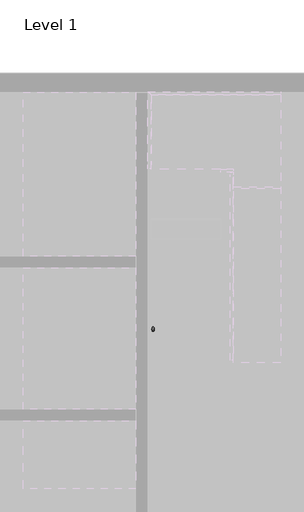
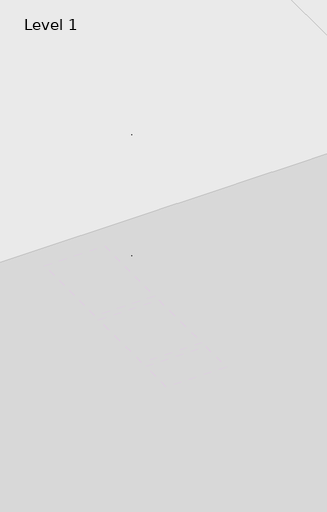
# One storey, part 26 of 27: 1 railing.
"""IFC4 building model written with IfcOpenShell, lengths in millimetres."""

from ifc_helpers import new_model, si_unit, point, frame, frame_2d, origin, place, context, project, spatial, circle_curve, ellipse_curve, trimmed, segment, composite_curve, outline, extrude, element, save
from ifc_brep_helpers import plane_surface, cylinder_surface, revolved_surface, advanced_brep

model = new_model("IFC4")

# Units and contexts
model_context = context("Model", 3, world=origin())
ifc_project = project(units=[si_unit("LENGTHUNIT", "METRE", prefix="MILLI")], contexts=[model_context])

# Site, building, storey
site = spatial("IfcSite", under=ifc_project)
building = spatial("IfcBuilding", under=site)
storey = spatial("IfcBuildingStorey", under=building, Name="Level 1", Elevation=0.0)

# Railing
placement = place(None, origin())
element("IfcRailing", 1, ObjectType="Handrail - Pipe - Wall-Ramp", at=placement, inside=storey, context=model_context, shape_type="SolidModel", body=[
    advanced_brep(
    [(25012.6999097, 26848.5799804, 4864.631259), (24974.5999097, 26848.5799804, 4864.631259), (25012.6999097, 29598.5799804, 6591.9039863), (24974.5999097, 29598.5799804, 6591.9039863)],
    [
        (0, 1, ellipse_curve(frame((24993.6499097, 26848.5799804, 4864.631259), z_axis=(0.0, -1.0, 0.0), x_axis=(0.0, 0.0, -1.0)), 22.496014, 19.05)),
        (1, 0, ellipse_curve(frame((24993.6499097, 26848.5799804, 4864.631259), z_axis=(0.0, -1.0, 0.0), x_axis=(0.0, 0.0, -1.0)), 22.496014, 19.05)),
        (2, 3, ellipse_curve(frame((24993.6499097, 29598.5799804, 6591.9039863), z_axis=(0.0, 1.0, 0.0), x_axis=(0.0, 0.0, -1.0)), 22.496014, 19.05)),
        (3, 2, ellipse_curve(frame((24993.6499097, 29598.5799804, 6591.9039863), z_axis=(0.0, 1.0, 0.0), x_axis=(0.0, 0.0, -1.0)), 22.496014, 19.05)),
        (0, 2),
        (3, 1),
    ],
    [
        plane_surface(frame((24993.6499097, 26848.5799804, 4887.127273), z_axis=(0.0, -1.0, 0.0), x_axis=(0.0, 0.0, 1.0))),
        plane_surface(frame((24993.6499097, 29598.5799804, 6614.4000003), z_axis=(0.0, 1.0, 0.0), x_axis=(0.0, 0.0, 1.0))),
        cylinder_surface(frame((24993.6499097, 26858.712387, 4870.9954152), z_axis=(0.0, -0.8468166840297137, -0.5318848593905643), x_axis=(-1.0, 0.0, 0.0)), 19.05),
    ],
    [
        (0, [[1, 2]]),
        (1, [[3, 4]]),
        (2, [[-1, 5, -4, 6]]),
        (2, [[-2, -6, -3, -5]]),
    ],
),
    advanced_brep(
    [(24993.6999097, 28826.8299804, 6119.6028929), (24993.6999097, 28839.5299804, 6119.6028929), (24993.6999097, 28839.5299804, 6062.4528929), (24993.6999097, 28826.8299804, 6062.4528929), (24974.6499097, 28839.5299804, 6043.4028929), (24974.6499097, 28826.8299804, 6043.4028929), (24946.0749097, 28826.8299804, 6043.4028929), (24946.0749097, 28839.5299804, 6043.4028929)],
    [
        (0, 1, circle_curve(frame((24993.6999097, 28833.1799804, 6119.6028929), z_axis=(0.0, 0.0, 1.0), x_axis=(0.0, 1.0, 0.0)), 6.35)),
        (1, 0, circle_curve(frame((24993.6999097, 28833.1799804, 6119.6028929), z_axis=(0.0, 0.0, 1.0), x_axis=(0.0, 1.0, 0.0)), 6.35)),
        (1, 2),
        (2, 3, circle_curve(frame((24993.6999097, 28833.1799804, 6062.4528929), z_axis=(0.0, 0.0, 1.0), x_axis=(0.0, 1.0, 0.0)), 6.35)),
        (3, 0),
        (3, 2, circle_curve(frame((24993.6999097, 28833.1799804, 6062.4528929), z_axis=(0.0, 0.0, 1.0), x_axis=(0.0, 1.0, 0.0)), 6.35)),
        (4, 5, circle_curve(frame((24974.6499097, 28833.1799804, 6043.4028929), z_axis=(1.0, 0.0, 0.0), x_axis=(0.0, 1.0, 0.0)), 6.35)),
        (5, 3, circle_curve(frame((24974.6499097, 28826.8299804, 6062.4528929), z_axis=(0.0, -1.0, 0.0), x_axis=(1.0, 0.0, 0.0)), 19.05)),
        (2, 4, circle_curve(frame((24974.6499097, 28839.5299804, 6062.4528929), z_axis=(0.0, 1.0, 0.0), x_axis=(1.0, 0.0, 0.0)), 19.05)),
        (5, 4, circle_curve(frame((24974.6499097, 28833.1799804, 6043.4028929), z_axis=(1.0, 0.0, 0.0), x_axis=(0.0, 1.0, 0.0)), 6.35)),
        (6, 7, circle_curve(frame((24946.0749097, 28833.1799804, 6043.4028929), z_axis=(-1.0, 0.0, 0.0), x_axis=(0.0, 1.0, 0.0)), 6.35)),
        (7, 6, circle_curve(frame((24946.0749097, 28833.1799804, 6043.4028929), z_axis=(-1.0, 0.0, 0.0), x_axis=(0.0, 1.0, 0.0)), 6.35)),
        (4, 7),
        (6, 5),
    ],
    [
        plane_surface(frame((24993.6999097, 28839.5299804, 6119.6028929), z_axis=(0.0, 0.0, 1.0), x_axis=(-1.0, 0.0, 0.0))),
        cylinder_surface(frame((24993.6999097, 28833.1799804, 6119.6028929), z_axis=(0.0, 0.0, 1.0), x_axis=(0.0, 1.0, 0.0)), 6.35),
        revolved_surface(trimmed(ellipse_curve(frame((24993.6999097, 28833.1799804, 6062.4528929), z_axis=(0.0, 0.0, -1.0), x_axis=(0.0, 1.0, 0.0)), 6.35, 6.35), [point((24993.6999097, 28826.8299804, 6062.4528929))], [point((24993.6999097, 28839.5299804, 6062.4528929))], True, "CARTESIAN"), (24974.6499097, 28833.1799804, 6062.4528929), (0.0, -1.0, 0.0)),
        revolved_surface(trimmed(ellipse_curve(frame((24993.6999097, 28833.1799804, 6062.4528929), z_axis=(0.0, 0.0, -1.0), x_axis=(0.0, 1.0, 0.0)), 6.35, 6.35), [point((24993.6999097, 28839.5299804, 6062.4528929))], [point((24993.6999097, 28826.8299804, 6062.4528929))], True, "CARTESIAN"), (24974.6499097, 28833.1799804, 6062.4528929), (0.0, -1.0, 0.0)),
        plane_surface(frame((24946.0749097, 28833.1799804, 6037.0528929), z_axis=(-1.0, 0.0, 0.0), x_axis=(0.0, 1.0, 0.0))),
        cylinder_surface(frame((24974.6499097, 28833.1799804, 6043.4028929), z_axis=(1.0, 0.0, 0.0), x_axis=(0.0, 1.0, 0.0)), 6.35),
    ],
    [
        (0, [[1, 2]]),
        (1, [[3, 4, 5, -2]]),
        (1, [[-5, 6, -3, -1]]),
        (2, [[7, 8, -4, 9]]),
        (3, [[10, -9, -6, -8]]),
        (4, [[11, 12]]),
        (5, [[13, -11, 14, -7]]),
        (5, [[-14, -12, -13, -10]]),
    ],
),
    extrude(outline(composite_curve([segment(trimmed(circle_curve(frame_2d((28833.1799804, 6043.4028929)), 25.4), [point((28858.5799804, 6043.4028929))], [point((28807.7799804, 6043.4028929))], False, "CARTESIAN"), True, "CONTINUOUS"), segment(trimmed(circle_curve(frame_2d((28833.1799804, 6043.4028929)), 25.4), [point((28807.7799804, 6043.4028929))], [point((28858.5799804, 6043.4028929))], False, "CARTESIAN"), True, "CONTINUOUS")], self_intersect=False)), frame((24936.5499097, 0.0, 0.0), z_axis=(1.0, 0.0, 0.0), x_axis=(0.0, 1.0, 0.0)), (0.0, 0.0, 1.0), 9.525),
    advanced_brep(
    [(24993.6999097, 27607.6299804, 5353.8243805), (24993.6999097, 27620.3299804, 5353.8243805), (24993.6999097, 27620.3299804, 5296.6743805), (24993.6999097, 27607.6299804, 5296.6743805), (24974.6499097, 27620.3299804, 5277.6243805), (24974.6499097, 27607.6299804, 5277.6243805), (24946.0749097, 27607.6299804, 5277.6243805), (24946.0749097, 27620.3299804, 5277.6243805)],
    [
        (0, 1, circle_curve(frame((24993.6999097, 27613.9799804, 5353.8243805), z_axis=(0.0, 0.0, 1.0), x_axis=(0.0, 1.0, 0.0)), 6.35)),
        (1, 0, circle_curve(frame((24993.6999097, 27613.9799804, 5353.8243805), z_axis=(0.0, 0.0, 1.0), x_axis=(0.0, 1.0, 0.0)), 6.35)),
        (1, 2),
        (2, 3, circle_curve(frame((24993.6999097, 27613.9799804, 5296.6743805), z_axis=(0.0, 0.0, 1.0), x_axis=(0.0, 1.0, 0.0)), 6.35)),
        (3, 0),
        (3, 2, circle_curve(frame((24993.6999097, 27613.9799804, 5296.6743805), z_axis=(0.0, 0.0, 1.0), x_axis=(0.0, 1.0, 0.0)), 6.35)),
        (4, 5, circle_curve(frame((24974.6499097, 27613.9799804, 5277.6243805), z_axis=(1.0, 0.0, 0.0), x_axis=(0.0, 1.0, 0.0)), 6.35)),
        (5, 3, circle_curve(frame((24974.6499097, 27607.6299804, 5296.6743805), z_axis=(0.0, -1.0, 0.0), x_axis=(1.0, 0.0, 0.0)), 19.05)),
        (2, 4, circle_curve(frame((24974.6499097, 27620.3299804, 5296.6743805), z_axis=(0.0, 1.0, 0.0), x_axis=(1.0, 0.0, 0.0)), 19.05)),
        (5, 4, circle_curve(frame((24974.6499097, 27613.9799804, 5277.6243805), z_axis=(1.0, 0.0, 0.0), x_axis=(0.0, 1.0, 0.0)), 6.35)),
        (6, 7, circle_curve(frame((24946.0749097, 27613.9799804, 5277.6243805), z_axis=(-1.0, 0.0, 0.0), x_axis=(0.0, 1.0, 0.0)), 6.35)),
        (7, 6, circle_curve(frame((24946.0749097, 27613.9799804, 5277.6243805), z_axis=(-1.0, 0.0, 0.0), x_axis=(0.0, 1.0, 0.0)), 6.35)),
        (4, 7),
        (6, 5),
    ],
    [
        plane_surface(frame((24993.6999097, 27620.3299804, 5353.8243805), z_axis=(0.0, 0.0, 1.0), x_axis=(-1.0, 0.0, 0.0))),
        cylinder_surface(frame((24993.6999097, 27613.9799804, 5353.8243805), z_axis=(0.0, 0.0, 1.0), x_axis=(0.0, 1.0, 0.0)), 6.35),
        revolved_surface(trimmed(ellipse_curve(frame((24993.6999097, 27613.9799804, 5296.6743805), z_axis=(0.0, 0.0, -1.0), x_axis=(0.0, 1.0, 0.0)), 6.35, 6.35), [point((24993.6999097, 27607.6299804, 5296.6743805))], [point((24993.6999097, 27620.3299804, 5296.6743805))], True, "CARTESIAN"), (24974.6499097, 27613.9799804, 5296.6743805), (0.0, -1.0, 0.0)),
        revolved_surface(trimmed(ellipse_curve(frame((24993.6999097, 27613.9799804, 5296.6743805), z_axis=(0.0, 0.0, -1.0), x_axis=(0.0, 1.0, 0.0)), 6.35, 6.35), [point((24993.6999097, 27620.3299804, 5296.6743805))], [point((24993.6999097, 27607.6299804, 5296.6743805))], True, "CARTESIAN"), (24974.6499097, 27613.9799804, 5296.6743805), (0.0, -1.0, 0.0)),
        plane_surface(frame((24946.0749097, 27613.9799804, 5271.2743805), z_axis=(-1.0, 0.0, 0.0), x_axis=(0.0, 1.0, 0.0))),
        cylinder_surface(frame((24974.6499097, 27613.9799804, 5277.6243805), z_axis=(1.0, 0.0, 0.0), x_axis=(0.0, 1.0, 0.0)), 6.35),
    ],
    [
        (0, [[1, 2]]),
        (1, [[3, 4, 5, -2]]),
        (1, [[-5, 6, -3, -1]]),
        (2, [[7, 8, -4, 9]]),
        (3, [[10, -9, -6, -8]]),
        (4, [[11, 12]]),
        (5, [[13, -11, 14, -7]]),
        (5, [[-14, -12, -13, -10]]),
    ],
),
    extrude(outline(composite_curve([segment(trimmed(circle_curve(frame_2d((27613.9799804, 5277.6243805)), 25.4), [point((27639.3799804, 5277.6243805))], [point((27588.5799804, 5277.6243805))], False, "CARTESIAN"), True, "CONTINUOUS"), segment(trimmed(circle_curve(frame_2d((27613.9799804, 5277.6243805)), 25.4), [point((27588.5799804, 5277.6243805))], [point((27639.3799804, 5277.6243805))], False, "CARTESIAN"), True, "CONTINUOUS")], self_intersect=False)), frame((24936.5499097, 0.0, 0.0), z_axis=(1.0, 0.0, 0.0), x_axis=(0.0, 1.0, 0.0)), (0.0, 0.0, 1.0), 9.525),
    advanced_brep(
    [(24974.6499097, 29585.8799804, 6590.3731408), (25012.7499097, 29585.8799804, 6590.3731408), (25012.7499097, 29852.5799804, 6590.3731408), (24974.6499097, 29852.5799804, 6590.3731408), (24936.5499097, 29871.6299804, 6590.3731408), (24936.5499097, 29909.7299804, 6590.3731408), (24955.5999097, 29909.7299804, 6590.3731408), (24955.5999097, 29871.6299804, 6590.3731408)],
    [
        (0, 1, circle_curve(frame((24993.6999097, 29585.8799804, 6590.3731408), z_axis=(0.0, -1.0, 0.0), x_axis=(1.0, 0.0, 0.0)), 19.05)),
        (1, 0, circle_curve(frame((24993.6999097, 29585.8799804, 6590.3731408), z_axis=(0.0, -1.0, 0.0), x_axis=(1.0, 0.0, 0.0)), 19.05)),
        (1, 2),
        (2, 3, circle_curve(frame((24993.6999097, 29852.5799804, 6590.3731408), z_axis=(0.0, -1.0, 0.0), x_axis=(1.0, 0.0, 0.0)), 19.05)),
        (3, 0),
        (3, 2, circle_curve(frame((24993.6999097, 29852.5799804, 6590.3731408), z_axis=(0.0, -1.0, 0.0), x_axis=(1.0, 0.0, 0.0)), 19.05)),
        (4, 5, circle_curve(frame((24936.5499097, 29890.6799804, 6590.3731408), z_axis=(-1.0, 0.0, 0.0), x_axis=(0.0, 1.0, 0.0)), 19.05)),
        (5, 4, circle_curve(frame((24936.5499097, 29890.6799804, 6590.3731408), z_axis=(-1.0, 0.0, 0.0), x_axis=(0.0, 1.0, 0.0)), 19.05)),
        (6, 5),
        (4, 7),
        (7, 6, circle_curve(frame((24955.5999097, 29890.6799804, 6590.3731408), z_axis=(-1.0, 0.0, 0.0), x_axis=(0.0, 1.0, 0.0)), 19.05)),
        (6, 7, circle_curve(frame((24955.5999097, 29890.6799804, 6590.3731408), z_axis=(-1.0, 0.0, 0.0), x_axis=(0.0, 1.0, 0.0)), 19.05)),
        (7, 3, circle_curve(frame((24955.5999097, 29852.5799804, 6590.3731408), z_axis=(0.0, 0.0, -1.0), x_axis=(1.0, 0.0, 0.0)), 19.05)),
        (2, 6, circle_curve(frame((24955.5999097, 29852.5799804, 6590.3731408), z_axis=(0.0, 0.0, 1.0), x_axis=(1.0, 0.0, 0.0)), 57.15)),
    ],
    [
        plane_surface(frame((24993.6999097, 29585.8799804, 6590.3731408), z_axis=(0.0, -1.0, 0.0), x_axis=(0.0, 0.0, 1.0))),
        cylinder_surface(frame((24993.6999097, 29585.8799804, 6590.3731408), z_axis=(0.0, -1.0, 0.0), x_axis=(1.0, 0.0, 0.0)), 19.05),
        plane_surface(frame((24936.5499097, 29890.6799804, 6590.3731408), z_axis=(-1.0, 0.0, 0.0), x_axis=(0.0, 0.0, 1.0))),
        cylinder_surface(frame((24955.5999097, 29890.6799804, 6590.3731408), z_axis=(1.0, 0.0, 0.0), x_axis=(0.0, 1.0, 0.0)), 19.05),
        revolved_surface(trimmed(ellipse_curve(frame((24993.6999097, 29852.5799804, 6590.3731408), z_axis=(0.0, 1.0, 0.0), x_axis=(1.0, 0.0, 0.0)), 19.05, 19.05), [point((24974.6499097, 29852.5799804, 6590.3731408))], [point((25012.7499097, 29852.5799804, 6590.3731408))], True, "CARTESIAN"), (24955.5999097, 29852.5799804, 6590.3731408), (0.0, 0.0, -1.0)),
        revolved_surface(trimmed(ellipse_curve(frame((24993.6999097, 29852.5799804, 6590.3731408), z_axis=(0.0, 1.0, 0.0), x_axis=(1.0, 0.0, 0.0)), 19.05, 19.05), [point((25012.7499097, 29852.5799804, 6590.3731408))], [point((24974.6499097, 29852.5799804, 6590.3731408))], True, "CARTESIAN"), (24955.5999097, 29852.5799804, 6590.3731408), (0.0, 0.0, -1.0)),
    ],
    [
        (0, [[1, 2]]),
        (1, [[3, 4, 5, -2]]),
        (1, [[-5, 6, -3, -1]]),
        (2, [[7, 8]]),
        (3, [[9, -7, 10, 11]]),
        (3, [[-10, -8, -9, 12]]),
        (4, [[-11, 13, -4, 14]]),
        (5, [[-12, -14, -6, -13]]),
    ],
),
    advanced_brep(
    [(24946.0749097, 29585.8799804, 6507.8231408), (24946.0749097, 29585.8799804, 6520.5231408), (24974.6499097, 29585.8799804, 6520.5231408), (24974.6499097, 29585.8799804, 6507.8231408), (25000.0499097, 29585.8799804, 6590.3731408), (24987.3499097, 29585.8799804, 6590.3731408), (24987.3499097, 29585.8799804, 6533.2231408), (25000.0499097, 29585.8799804, 6533.2231408)],
    [
        (0, 1, circle_curve(frame((24946.0749097, 29585.8799804, 6514.1731408), z_axis=(-1.0, 0.0, 0.0), x_axis=(0.0, 0.0, 1.0)), 6.35)),
        (1, 0, circle_curve(frame((24946.0749097, 29585.8799804, 6514.1731408), z_axis=(-1.0, 0.0, 0.0), x_axis=(0.0, 0.0, 1.0)), 6.35)),
        (1, 2),
        (2, 3, circle_curve(frame((24974.6499097, 29585.8799804, 6514.1731408), z_axis=(-1.0, 0.0, 0.0), x_axis=(0.0, 0.0, 1.0)), 6.35)),
        (3, 0),
        (3, 2, circle_curve(frame((24974.6499097, 29585.8799804, 6514.1731408), z_axis=(-1.0, 0.0, 0.0), x_axis=(0.0, 0.0, 1.0)), 6.35)),
        (4, 5, circle_curve(frame((24993.6999097, 29585.8799804, 6590.3731408), z_axis=(0.0, 0.0, 1.0), x_axis=(-1.0, 0.0, 0.0)), 6.35)),
        (5, 4, circle_curve(frame((24993.6999097, 29585.8799804, 6590.3731408), z_axis=(0.0, 0.0, 1.0), x_axis=(-1.0, 0.0, 0.0)), 6.35)),
        (6, 5),
        (4, 7),
        (7, 6, circle_curve(frame((24993.6999097, 29585.8799804, 6533.2231408), z_axis=(0.0, 0.0, 1.0), x_axis=(-1.0, 0.0, 0.0)), 6.35)),
        (6, 7, circle_curve(frame((24993.6999097, 29585.8799804, 6533.2231408), z_axis=(0.0, 0.0, 1.0), x_axis=(-1.0, 0.0, 0.0)), 6.35)),
        (7, 3, circle_curve(frame((24974.6499097, 29585.8799804, 6533.2231408), z_axis=(0.0, 1.0, 0.0), x_axis=(0.0, 0.0, -1.0)), 25.4)),
        (2, 6, circle_curve(frame((24974.6499097, 29585.8799804, 6533.2231408), z_axis=(0.0, -1.0, 0.0), x_axis=(0.0, 0.0, -1.0)), 12.7)),
    ],
    [
        plane_surface(frame((24946.0749097, 29585.8799804, 6514.1731408), z_axis=(-1.0, 0.0, 0.0), x_axis=(0.0, 1.0, 0.0))),
        cylinder_surface(frame((24946.0749097, 29585.8799804, 6514.1731408), z_axis=(-1.0, 0.0, 0.0), x_axis=(0.0, 0.0, 1.0)), 6.35),
        plane_surface(frame((24993.6999097, 29585.8799804, 6590.3731408), z_axis=(0.0, 0.0, 1.0), x_axis=(0.0, 1.0, 0.0))),
        cylinder_surface(frame((24993.6999097, 29585.8799804, 6533.2231408), z_axis=(0.0, 0.0, -1.0), x_axis=(-1.0, 0.0, 0.0)), 6.35),
        revolved_surface(trimmed(ellipse_curve(frame((24974.6499097, 29585.8799804, 6514.1731408), z_axis=(1.0, 0.0, 0.0), x_axis=(0.0, 0.0, 1.0)), 6.35, 6.35), [point((24974.6499097, 29585.8799804, 6507.8231408))], [point((24974.6499097, 29585.8799804, 6520.5231408))], True, "CARTESIAN"), (24974.6499097, 29585.8799804, 6533.2231408), (0.0, 1.0, 0.0)),
        revolved_surface(trimmed(ellipse_curve(frame((24974.6499097, 29585.8799804, 6514.1731408), z_axis=(1.0, 0.0, 0.0), x_axis=(0.0, 0.0, 1.0)), 6.35, 6.35), [point((24974.6499097, 29585.8799804, 6520.5231408))], [point((24974.6499097, 29585.8799804, 6507.8231408))], True, "CARTESIAN"), (24974.6499097, 29585.8799804, 6533.2231408), (0.0, 1.0, 0.0)),
    ],
    [
        (0, [[1, 2]]),
        (1, [[3, 4, 5, -2]]),
        (1, [[-5, 6, -3, -1]]),
        (2, [[7, 8]]),
        (3, [[9, -7, 10, 11]]),
        (3, [[-10, -8, -9, 12]]),
        (4, [[-11, 13, -4, 14]]),
        (5, [[-12, -14, -6, -13]]),
    ],
),
    extrude(outline(composite_curve([segment(trimmed(circle_curve(frame_2d((29585.8799804, 6514.1731408)), 25.4), [point((29611.2799804, 6514.1731408))], [point((29560.4799804, 6514.1731408))], False, "CARTESIAN"), True, "CONTINUOUS"), segment(trimmed(circle_curve(frame_2d((29585.8799804, 6514.1731408)), 25.4), [point((29560.4799804, 6514.1731408))], [point((29611.2799804, 6514.1731408))], False, "CARTESIAN"), True, "CONTINUOUS")], self_intersect=False)), frame((24936.5499097, 0.0, 0.0), z_axis=(1.0, 0.0, 0.0), x_axis=(0.0, 1.0, 0.0)), (0.0, 0.0, 1.0), 9.525),
    advanced_brep(
    [(24936.5499097, 26575.5299804, 4879.0541325), (24936.5499097, 26537.4299804, 4879.0541325), (24955.5999097, 26537.4299804, 4879.0541325), (24955.5999097, 26575.5299804, 4879.0541325), (25012.7499097, 26594.5799804, 4879.0541325), (24974.6499097, 26594.5799804, 4879.0541325), (24974.6499097, 26861.2799804, 4879.0541325), (25012.7499097, 26861.2799804, 4879.0541325)],
    [
        (0, 1, circle_curve(frame((24936.5499097, 26556.4799804, 4879.0541325), z_axis=(-1.0, 0.0, 0.0), x_axis=(0.0, -1.0, 0.0)), 19.05)),
        (1, 0, circle_curve(frame((24936.5499097, 26556.4799804, 4879.0541325), z_axis=(-1.0, 0.0, 0.0), x_axis=(0.0, -1.0, 0.0)), 19.05)),
        (1, 2),
        (2, 3, circle_curve(frame((24955.5999097, 26556.4799804, 4879.0541325), z_axis=(-1.0, 0.0, 0.0), x_axis=(0.0, -1.0, 0.0)), 19.05)),
        (3, 0),
        (3, 2, circle_curve(frame((24955.5999097, 26556.4799804, 4879.0541325), z_axis=(-1.0, 0.0, 0.0), x_axis=(0.0, -1.0, 0.0)), 19.05)),
        (4, 5, circle_curve(frame((24993.6999097, 26594.5799804, 4879.0541325), z_axis=(0.0, -1.0, 0.0), x_axis=(1.0, 0.0, 0.0)), 19.05)),
        (5, 3, circle_curve(frame((24955.5999097, 26594.5799804, 4879.0541325), z_axis=(0.0, 0.0, -1.0), x_axis=(0.0, -1.0, 0.0)), 19.05)),
        (2, 4, circle_curve(frame((24955.5999097, 26594.5799804, 4879.0541325), z_axis=(0.0, 0.0, 1.0), x_axis=(0.0, -1.0, 0.0)), 57.15)),
        (5, 4, circle_curve(frame((24993.6999097, 26594.5799804, 4879.0541325), z_axis=(0.0, -1.0, 0.0), x_axis=(1.0, 0.0, 0.0)), 19.05)),
        (6, 7, circle_curve(frame((24993.6999097, 26861.2799804, 4879.0541325), z_axis=(0.0, 1.0, 0.0), x_axis=(1.0, 0.0, 0.0)), 19.05)),
        (7, 6, circle_curve(frame((24993.6999097, 26861.2799804, 4879.0541325), z_axis=(0.0, 1.0, 0.0), x_axis=(1.0, 0.0, 0.0)), 19.05)),
        (4, 7),
        (6, 5),
    ],
    [
        plane_surface(frame((24936.5499097, 26556.4799804, 4879.0541325), z_axis=(-1.0, 0.0, 0.0), x_axis=(0.0, 0.0, 1.0))),
        cylinder_surface(frame((24936.5499097, 26556.4799804, 4879.0541325), z_axis=(-1.0, 0.0, 0.0), x_axis=(0.0, -1.0, 0.0)), 19.05),
        revolved_surface(trimmed(ellipse_curve(frame((24955.5999097, 26556.4799804, 4879.0541325), z_axis=(1.0, 0.0, 0.0), x_axis=(0.0, -1.0, 0.0)), 19.05, 19.05), [point((24955.5999097, 26575.5299804, 4879.0541325))], [point((24955.5999097, 26537.4299804, 4879.0541325))], True, "CARTESIAN"), (24955.5999097, 26594.5799804, 4879.0541325), (0.0, 0.0, -1.0)),
        revolved_surface(trimmed(ellipse_curve(frame((24955.5999097, 26556.4799804, 4879.0541325), z_axis=(1.0, 0.0, 0.0), x_axis=(0.0, -1.0, 0.0)), 19.05, 19.05), [point((24955.5999097, 26537.4299804, 4879.0541325))], [point((24955.5999097, 26575.5299804, 4879.0541325))], True, "CARTESIAN"), (24955.5999097, 26594.5799804, 4879.0541325), (0.0, 0.0, -1.0)),
        plane_surface(frame((24993.6999097, 26861.2799804, 4879.0541325), z_axis=(0.0, 1.0, 0.0), x_axis=(0.0, 0.0, 1.0))),
        cylinder_surface(frame((24993.6999097, 26594.5799804, 4879.0541325), z_axis=(0.0, -1.0, 0.0), x_axis=(1.0, 0.0, 0.0)), 19.05),
    ],
    [
        (0, [[1, 2]]),
        (1, [[3, 4, 5, -2]]),
        (1, [[-5, 6, -3, -1]]),
        (2, [[7, 8, -4, 9]]),
        (3, [[10, -9, -6, -8]]),
        (4, [[11, 12]]),
        (5, [[13, -11, 14, -7]]),
        (5, [[-14, -12, -13, -10]]),
    ],
),
    advanced_brep(
    [(24946.0749097, 26861.2799804, 4796.5041325), (24946.0749097, 26861.2799804, 4809.2041325), (24974.6499097, 26861.2799804, 4809.2041325), (24974.6499097, 26861.2799804, 4796.5041325), (24987.3499097, 26861.2799804, 4821.9041325), (25000.0499097, 26861.2799804, 4821.9041325), (25000.0499097, 26861.2799804, 4879.0541325), (24987.3499097, 26861.2799804, 4879.0541325)],
    [
        (0, 1, circle_curve(frame((24946.0749097, 26861.2799804, 4802.8541325), z_axis=(-1.0, 0.0, 0.0), x_axis=(0.0, 0.0, 1.0)), 6.35)),
        (1, 0, circle_curve(frame((24946.0749097, 26861.2799804, 4802.8541325), z_axis=(-1.0, 0.0, 0.0), x_axis=(0.0, 0.0, 1.0)), 6.35)),
        (1, 2),
        (2, 3, circle_curve(frame((24974.6499097, 26861.2799804, 4802.8541325), z_axis=(-1.0, 0.0, 0.0), x_axis=(0.0, 0.0, 1.0)), 6.35)),
        (3, 0),
        (3, 2, circle_curve(frame((24974.6499097, 26861.2799804, 4802.8541325), z_axis=(-1.0, 0.0, 0.0), x_axis=(0.0, 0.0, 1.0)), 6.35)),
        (4, 5, circle_curve(frame((24993.6999097, 26861.2799804, 4821.9041325), z_axis=(0.0, 0.0, -1.0), x_axis=(-1.0, 0.0, 0.0)), 6.35)),
        (5, 3, circle_curve(frame((24974.6499097, 26861.2799804, 4821.9041325), z_axis=(0.0, 1.0, 0.0), x_axis=(0.0, 0.0, -1.0)), 25.4)),
        (2, 4, circle_curve(frame((24974.6499097, 26861.2799804, 4821.9041325), z_axis=(0.0, -1.0, 0.0), x_axis=(0.0, 0.0, -1.0)), 12.7)),
        (5, 4, circle_curve(frame((24993.6999097, 26861.2799804, 4821.9041325), z_axis=(0.0, 0.0, -1.0), x_axis=(-1.0, 0.0, 0.0)), 6.35)),
        (6, 7, circle_curve(frame((24993.6999097, 26861.2799804, 4879.0541325), z_axis=(0.0, 0.0, 1.0), x_axis=(-1.0, 0.0, 0.0)), 6.35)),
        (7, 6, circle_curve(frame((24993.6999097, 26861.2799804, 4879.0541325), z_axis=(0.0, 0.0, 1.0), x_axis=(-1.0, 0.0, 0.0)), 6.35)),
        (4, 7),
        (6, 5),
    ],
    [
        plane_surface(frame((24946.0749097, 26861.2799804, 4802.8541325), z_axis=(-1.0, 0.0, 0.0), x_axis=(0.0, 1.0, 0.0))),
        cylinder_surface(frame((24946.0749097, 26861.2799804, 4802.8541325), z_axis=(-1.0, 0.0, 0.0), x_axis=(0.0, 0.0, 1.0)), 6.35),
        revolved_surface(trimmed(ellipse_curve(frame((24974.6499097, 26861.2799804, 4802.8541325), z_axis=(1.0, 0.0, 0.0), x_axis=(0.0, 0.0, 1.0)), 6.35, 6.35), [point((24974.6499097, 26861.2799804, 4796.5041325))], [point((24974.6499097, 26861.2799804, 4809.2041325))], True, "CARTESIAN"), (24974.6499097, 26861.2799804, 4821.9041325), (0.0, 1.0, 0.0)),
        revolved_surface(trimmed(ellipse_curve(frame((24974.6499097, 26861.2799804, 4802.8541325), z_axis=(1.0, 0.0, 0.0), x_axis=(0.0, 0.0, 1.0)), 6.35, 6.35), [point((24974.6499097, 26861.2799804, 4809.2041325))], [point((24974.6499097, 26861.2799804, 4796.5041325))], True, "CARTESIAN"), (24974.6499097, 26861.2799804, 4821.9041325), (0.0, 1.0, 0.0)),
        plane_surface(frame((24993.6999097, 26861.2799804, 4879.0541325), z_axis=(0.0, 0.0, 1.0), x_axis=(0.0, 1.0, 0.0))),
        cylinder_surface(frame((24993.6999097, 26861.2799804, 4821.9041325), z_axis=(0.0, 0.0, -1.0), x_axis=(-1.0, 0.0, 0.0)), 6.35),
    ],
    [
        (0, [[1, 2]]),
        (1, [[3, 4, 5, -2]]),
        (1, [[-5, 6, -3, -1]]),
        (2, [[7, 8, -4, 9]]),
        (3, [[10, -9, -6, -8]]),
        (4, [[11, 12]]),
        (5, [[13, -11, 14, -7]]),
        (5, [[-14, -12, -13, -10]]),
    ],
),
    extrude(outline(composite_curve([segment(trimmed(circle_curve(frame_2d((26861.2799804, 4802.8541325)), 25.4), [point((26886.6799804, 4802.8541325))], [point((26835.8799804, 4802.8541325))], False, "CARTESIAN"), True, "CONTINUOUS"), segment(trimmed(circle_curve(frame_2d((26861.2799804, 4802.8541325)), 25.4), [point((26835.8799804, 4802.8541325))], [point((26886.6799804, 4802.8541325))], False, "CARTESIAN"), True, "CONTINUOUS")], self_intersect=False)), frame((24936.5499097, 0.0, 0.0), z_axis=(1.0, 0.0, 0.0), x_axis=(0.0, 1.0, 0.0)), (0.0, 0.0, 1.0), 9.525),
    advanced_brep(
    [(25012.6999097, 26848.5799804, 1064.6312587), (24974.5999097, 26848.5799804, 1064.6312587), (25012.6999097, 29598.5799804, 2791.903986), (24974.5999097, 29598.5799804, 2791.903986)],
    [
        (0, 1, ellipse_curve(frame((24993.6499097, 26848.5799804, 1064.6312587), z_axis=(0.0, -1.0, 0.0), x_axis=(0.0, 0.0, -1.0)), 22.496014, 19.05)),
        (1, 0, ellipse_curve(frame((24993.6499097, 26848.5799804, 1064.6312587), z_axis=(0.0, -1.0, 0.0), x_axis=(0.0, 0.0, -1.0)), 22.496014, 19.05)),
        (2, 3, ellipse_curve(frame((24993.6499097, 29598.5799804, 2791.903986), z_axis=(0.0, 1.0, 0.0), x_axis=(0.0, 0.0, -1.0)), 22.496014, 19.05)),
        (3, 2, ellipse_curve(frame((24993.6499097, 29598.5799804, 2791.903986), z_axis=(0.0, 1.0, 0.0), x_axis=(0.0, 0.0, -1.0)), 22.496014, 19.05)),
        (0, 2),
        (3, 1),
    ],
    [
        plane_surface(frame((24993.6499097, 26848.5799804, 1087.1272727), z_axis=(0.0, -1.0, 0.0), x_axis=(0.0, 0.0, 1.0))),
        plane_surface(frame((24993.6499097, 29598.5799804, 2814.4), z_axis=(0.0, 1.0, 0.0), x_axis=(0.0, 0.0, 1.0))),
        cylinder_surface(frame((24993.6499097, 26858.712387, 1070.9954149), z_axis=(0.0, -0.8468166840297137, -0.5318848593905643), x_axis=(-1.0, 0.0, 0.0)), 19.05),
    ],
    [
        (0, [[1, 2]]),
        (1, [[3, 4]]),
        (2, [[-1, 5, -4, 6]]),
        (2, [[-2, -6, -3, -5]]),
    ],
),
    advanced_brep(
    [(24993.6999097, 28826.8299804, 2319.6028926), (24993.6999097, 28839.5299804, 2319.6028926), (24993.6999097, 28839.5299804, 2262.4528926), (24993.6999097, 28826.8299804, 2262.4528926), (24974.6499097, 28839.5299804, 2243.4028926), (24974.6499097, 28826.8299804, 2243.4028926), (24946.0749097, 28826.8299804, 2243.4028926), (24946.0749097, 28839.5299804, 2243.4028926)],
    [
        (0, 1, circle_curve(frame((24993.6999097, 28833.1799804, 2319.6028926), z_axis=(0.0, 0.0, 1.0), x_axis=(0.0, 1.0, 0.0)), 6.35)),
        (1, 0, circle_curve(frame((24993.6999097, 28833.1799804, 2319.6028926), z_axis=(0.0, 0.0, 1.0), x_axis=(0.0, 1.0, 0.0)), 6.35)),
        (1, 2),
        (2, 3, circle_curve(frame((24993.6999097, 28833.1799804, 2262.4528926), z_axis=(0.0, 0.0, 1.0), x_axis=(0.0, 1.0, 0.0)), 6.35)),
        (3, 0),
        (3, 2, circle_curve(frame((24993.6999097, 28833.1799804, 2262.4528926), z_axis=(0.0, 0.0, 1.0), x_axis=(0.0, 1.0, 0.0)), 6.35)),
        (4, 5, circle_curve(frame((24974.6499097, 28833.1799804, 2243.4028926), z_axis=(1.0, 0.0, 0.0), x_axis=(0.0, 1.0, 0.0)), 6.35)),
        (5, 3, circle_curve(frame((24974.6499097, 28826.8299804, 2262.4528926), z_axis=(0.0, -1.0, 0.0), x_axis=(1.0, 0.0, 0.0)), 19.05)),
        (2, 4, circle_curve(frame((24974.6499097, 28839.5299804, 2262.4528926), z_axis=(0.0, 1.0, 0.0), x_axis=(1.0, 0.0, 0.0)), 19.05)),
        (5, 4, circle_curve(frame((24974.6499097, 28833.1799804, 2243.4028926), z_axis=(1.0, 0.0, 0.0), x_axis=(0.0, 1.0, 0.0)), 6.35)),
        (6, 7, circle_curve(frame((24946.0749097, 28833.1799804, 2243.4028926), z_axis=(-1.0, 0.0, 0.0), x_axis=(0.0, 1.0, 0.0)), 6.35)),
        (7, 6, circle_curve(frame((24946.0749097, 28833.1799804, 2243.4028926), z_axis=(-1.0, 0.0, 0.0), x_axis=(0.0, 1.0, 0.0)), 6.35)),
        (4, 7),
        (6, 5),
    ],
    [
        plane_surface(frame((24993.6999097, 28839.5299804, 2319.6028926), z_axis=(0.0, 0.0, 1.0), x_axis=(-1.0, 0.0, 0.0))),
        cylinder_surface(frame((24993.6999097, 28833.1799804, 2319.6028926), z_axis=(0.0, 0.0, 1.0), x_axis=(0.0, 1.0, 0.0)), 6.35),
        revolved_surface(trimmed(ellipse_curve(frame((24993.6999097, 28833.1799804, 2262.4528926), z_axis=(0.0, 0.0, -1.0), x_axis=(0.0, 1.0, 0.0)), 6.35, 6.35), [point((24993.6999097, 28826.8299804, 2262.4528926))], [point((24993.6999097, 28839.5299804, 2262.4528926))], True, "CARTESIAN"), (24974.6499097, 28833.1799804, 2262.4528926), (0.0, -1.0, 0.0)),
        revolved_surface(trimmed(ellipse_curve(frame((24993.6999097, 28833.1799804, 2262.4528926), z_axis=(0.0, 0.0, -1.0), x_axis=(0.0, 1.0, 0.0)), 6.35, 6.35), [point((24993.6999097, 28839.5299804, 2262.4528926))], [point((24993.6999097, 28826.8299804, 2262.4528926))], True, "CARTESIAN"), (24974.6499097, 28833.1799804, 2262.4528926), (0.0, -1.0, 0.0)),
        plane_surface(frame((24946.0749097, 28833.1799804, 2237.0528926), z_axis=(-1.0, 0.0, 0.0), x_axis=(0.0, 1.0, 0.0))),
        cylinder_surface(frame((24974.6499097, 28833.1799804, 2243.4028926), z_axis=(1.0, 0.0, 0.0), x_axis=(0.0, 1.0, 0.0)), 6.35),
    ],
    [
        (0, [[1, 2]]),
        (1, [[3, 4, 5, -2]]),
        (1, [[-5, 6, -3, -1]]),
        (2, [[7, 8, -4, 9]]),
        (3, [[10, -9, -6, -8]]),
        (4, [[11, 12]]),
        (5, [[13, -11, 14, -7]]),
        (5, [[-14, -12, -13, -10]]),
    ],
),
    extrude(outline(composite_curve([segment(trimmed(circle_curve(frame_2d((28833.1799804, 2243.4028926)), 25.4), [point((28858.5799804, 2243.4028926))], [point((28807.7799804, 2243.4028926))], False, "CARTESIAN"), True, "CONTINUOUS"), segment(trimmed(circle_curve(frame_2d((28833.1799804, 2243.4028926)), 25.4), [point((28807.7799804, 2243.4028926))], [point((28858.5799804, 2243.4028926))], False, "CARTESIAN"), True, "CONTINUOUS")], self_intersect=False)), frame((24936.5499097, 0.0, 0.0), z_axis=(1.0, 0.0, 0.0), x_axis=(0.0, 1.0, 0.0)), (0.0, 0.0, 1.0), 9.525),
    advanced_brep(
    [(24993.6999097, 27607.6299804, 1553.8243802), (24993.6999097, 27620.3299804, 1553.8243802), (24993.6999097, 27620.3299804, 1496.6743802), (24993.6999097, 27607.6299804, 1496.6743802), (24974.6499097, 27620.3299804, 1477.6243802), (24974.6499097, 27607.6299804, 1477.6243802), (24946.0749097, 27607.6299804, 1477.6243802), (24946.0749097, 27620.3299804, 1477.6243802)],
    [
        (0, 1, circle_curve(frame((24993.6999097, 27613.9799804, 1553.8243802), z_axis=(0.0, 0.0, 1.0), x_axis=(0.0, 1.0, 0.0)), 6.35)),
        (1, 0, circle_curve(frame((24993.6999097, 27613.9799804, 1553.8243802), z_axis=(0.0, 0.0, 1.0), x_axis=(0.0, 1.0, 0.0)), 6.35)),
        (1, 2),
        (2, 3, circle_curve(frame((24993.6999097, 27613.9799804, 1496.6743802), z_axis=(0.0, 0.0, 1.0), x_axis=(0.0, 1.0, 0.0)), 6.35)),
        (3, 0),
        (3, 2, circle_curve(frame((24993.6999097, 27613.9799804, 1496.6743802), z_axis=(0.0, 0.0, 1.0), x_axis=(0.0, 1.0, 0.0)), 6.35)),
        (4, 5, circle_curve(frame((24974.6499097, 27613.9799804, 1477.6243802), z_axis=(1.0, 0.0, 0.0), x_axis=(0.0, 1.0, 0.0)), 6.35)),
        (5, 3, circle_curve(frame((24974.6499097, 27607.6299804, 1496.6743802), z_axis=(0.0, -1.0, 0.0), x_axis=(1.0, 0.0, 0.0)), 19.05)),
        (2, 4, circle_curve(frame((24974.6499097, 27620.3299804, 1496.6743802), z_axis=(0.0, 1.0, 0.0), x_axis=(1.0, 0.0, 0.0)), 19.05)),
        (5, 4, circle_curve(frame((24974.6499097, 27613.9799804, 1477.6243802), z_axis=(1.0, 0.0, 0.0), x_axis=(0.0, 1.0, 0.0)), 6.35)),
        (6, 7, circle_curve(frame((24946.0749097, 27613.9799804, 1477.6243802), z_axis=(-1.0, 0.0, 0.0), x_axis=(0.0, 1.0, 0.0)), 6.35)),
        (7, 6, circle_curve(frame((24946.0749097, 27613.9799804, 1477.6243802), z_axis=(-1.0, 0.0, 0.0), x_axis=(0.0, 1.0, 0.0)), 6.35)),
        (4, 7),
        (6, 5),
    ],
    [
        plane_surface(frame((24993.6999097, 27620.3299804, 1553.8243802), z_axis=(0.0, 0.0, 1.0), x_axis=(-1.0, 0.0, 0.0))),
        cylinder_surface(frame((24993.6999097, 27613.9799804, 1553.8243802), z_axis=(0.0, 0.0, 1.0), x_axis=(0.0, 1.0, 0.0)), 6.35),
        revolved_surface(trimmed(ellipse_curve(frame((24993.6999097, 27613.9799804, 1496.6743802), z_axis=(0.0, 0.0, -1.0), x_axis=(0.0, 1.0, 0.0)), 6.35, 6.35), [point((24993.6999097, 27607.6299804, 1496.6743802))], [point((24993.6999097, 27620.3299804, 1496.6743802))], True, "CARTESIAN"), (24974.6499097, 27613.9799804, 1496.6743802), (0.0, -1.0, 0.0)),
        revolved_surface(trimmed(ellipse_curve(frame((24993.6999097, 27613.9799804, 1496.6743802), z_axis=(0.0, 0.0, -1.0), x_axis=(0.0, 1.0, 0.0)), 6.35, 6.35), [point((24993.6999097, 27620.3299804, 1496.6743802))], [point((24993.6999097, 27607.6299804, 1496.6743802))], True, "CARTESIAN"), (24974.6499097, 27613.9799804, 1496.6743802), (0.0, -1.0, 0.0)),
        plane_surface(frame((24946.0749097, 27613.9799804, 1471.2743802), z_axis=(-1.0, 0.0, 0.0), x_axis=(0.0, 1.0, 0.0))),
        cylinder_surface(frame((24974.6499097, 27613.9799804, 1477.6243802), z_axis=(1.0, 0.0, 0.0), x_axis=(0.0, 1.0, 0.0)), 6.35),
    ],
    [
        (0, [[1, 2]]),
        (1, [[3, 4, 5, -2]]),
        (1, [[-5, 6, -3, -1]]),
        (2, [[7, 8, -4, 9]]),
        (3, [[10, -9, -6, -8]]),
        (4, [[11, 12]]),
        (5, [[13, -11, 14, -7]]),
        (5, [[-14, -12, -13, -10]]),
    ],
),
    extrude(outline(composite_curve([segment(trimmed(circle_curve(frame_2d((27613.9799804, 1477.6243802)), 25.4), [point((27639.3799804, 1477.6243802))], [point((27588.5799804, 1477.6243802))], False, "CARTESIAN"), True, "CONTINUOUS"), segment(trimmed(circle_curve(frame_2d((27613.9799804, 1477.6243802)), 25.4), [point((27588.5799804, 1477.6243802))], [point((27639.3799804, 1477.6243802))], False, "CARTESIAN"), True, "CONTINUOUS")], self_intersect=False)), frame((24936.5499097, 0.0, 0.0), z_axis=(1.0, 0.0, 0.0), x_axis=(0.0, 1.0, 0.0)), (0.0, 0.0, 1.0), 9.525),
    advanced_brep(
    [(24974.6499097, 29585.8799804, 2790.3731405), (25012.7499097, 29585.8799804, 2790.3731405), (25012.7499097, 29852.5799804, 2790.3731405), (24974.6499097, 29852.5799804, 2790.3731405), (24936.5499097, 29871.6299804, 2790.3731405), (24936.5499097, 29909.7299804, 2790.3731405), (24955.5999097, 29909.7299804, 2790.3731405), (24955.5999097, 29871.6299804, 2790.3731405)],
    [
        (0, 1, circle_curve(frame((24993.6999097, 29585.8799804, 2790.3731405), z_axis=(0.0, -1.0, 0.0), x_axis=(1.0, 0.0, 0.0)), 19.05)),
        (1, 0, circle_curve(frame((24993.6999097, 29585.8799804, 2790.3731405), z_axis=(0.0, -1.0, 0.0), x_axis=(1.0, 0.0, 0.0)), 19.05)),
        (1, 2),
        (2, 3, circle_curve(frame((24993.6999097, 29852.5799804, 2790.3731405), z_axis=(0.0, -1.0, 0.0), x_axis=(1.0, 0.0, 0.0)), 19.05)),
        (3, 0),
        (3, 2, circle_curve(frame((24993.6999097, 29852.5799804, 2790.3731405), z_axis=(0.0, -1.0, 0.0), x_axis=(1.0, 0.0, 0.0)), 19.05)),
        (4, 5, circle_curve(frame((24936.5499097, 29890.6799804, 2790.3731405), z_axis=(-1.0, 0.0, 0.0), x_axis=(0.0, 1.0, 0.0)), 19.05)),
        (5, 4, circle_curve(frame((24936.5499097, 29890.6799804, 2790.3731405), z_axis=(-1.0, 0.0, 0.0), x_axis=(0.0, 1.0, 0.0)), 19.05)),
        (6, 5),
        (4, 7),
        (7, 6, circle_curve(frame((24955.5999097, 29890.6799804, 2790.3731405), z_axis=(-1.0, 0.0, 0.0), x_axis=(0.0, 1.0, 0.0)), 19.05)),
        (6, 7, circle_curve(frame((24955.5999097, 29890.6799804, 2790.3731405), z_axis=(-1.0, 0.0, 0.0), x_axis=(0.0, 1.0, 0.0)), 19.05)),
        (7, 3, circle_curve(frame((24955.5999097, 29852.5799804, 2790.3731405), z_axis=(0.0, 0.0, -1.0), x_axis=(1.0, 0.0, 0.0)), 19.05)),
        (2, 6, circle_curve(frame((24955.5999097, 29852.5799804, 2790.3731405), z_axis=(0.0, 0.0, 1.0), x_axis=(1.0, 0.0, 0.0)), 57.15)),
    ],
    [
        plane_surface(frame((24993.6999097, 29585.8799804, 2790.3731405), z_axis=(0.0, -1.0, 0.0), x_axis=(0.0, 0.0, 1.0))),
        cylinder_surface(frame((24993.6999097, 29585.8799804, 2790.3731405), z_axis=(0.0, -1.0, 0.0), x_axis=(1.0, 0.0, 0.0)), 19.05),
        plane_surface(frame((24936.5499097, 29890.6799804, 2790.3731405), z_axis=(-1.0, 0.0, 0.0), x_axis=(0.0, 0.0, 1.0))),
        cylinder_surface(frame((24955.5999097, 29890.6799804, 2790.3731405), z_axis=(1.0, 0.0, 0.0), x_axis=(0.0, 1.0, 0.0)), 19.05),
        revolved_surface(trimmed(ellipse_curve(frame((24993.6999097, 29852.5799804, 2790.3731405), z_axis=(0.0, 1.0, 0.0), x_axis=(1.0, 0.0, 0.0)), 19.05, 19.05), [point((24974.6499097, 29852.5799804, 2790.3731405))], [point((25012.7499097, 29852.5799804, 2790.3731405))], True, "CARTESIAN"), (24955.5999097, 29852.5799804, 2790.3731405), (0.0, 0.0, -1.0)),
        revolved_surface(trimmed(ellipse_curve(frame((24993.6999097, 29852.5799804, 2790.3731405), z_axis=(0.0, 1.0, 0.0), x_axis=(1.0, 0.0, 0.0)), 19.05, 19.05), [point((25012.7499097, 29852.5799804, 2790.3731405))], [point((24974.6499097, 29852.5799804, 2790.3731405))], True, "CARTESIAN"), (24955.5999097, 29852.5799804, 2790.3731405), (0.0, 0.0, -1.0)),
    ],
    [
        (0, [[1, 2]]),
        (1, [[3, 4, 5, -2]]),
        (1, [[-5, 6, -3, -1]]),
        (2, [[7, 8]]),
        (3, [[9, -7, 10, 11]]),
        (3, [[-10, -8, -9, 12]]),
        (4, [[-11, 13, -4, 14]]),
        (5, [[-12, -14, -6, -13]]),
    ],
),
    advanced_brep(
    [(24946.0749097, 29585.8799804, 2707.8231405), (24946.0749097, 29585.8799804, 2720.5231405), (24974.6499097, 29585.8799804, 2720.5231405), (24974.6499097, 29585.8799804, 2707.8231405), (25000.0499097, 29585.8799804, 2790.3731405), (24987.3499097, 29585.8799804, 2790.3731405), (24987.3499097, 29585.8799804, 2733.2231405), (25000.0499097, 29585.8799804, 2733.2231405)],
    [
        (0, 1, circle_curve(frame((24946.0749097, 29585.8799804, 2714.1731405), z_axis=(-1.0, 0.0, 0.0), x_axis=(0.0, 0.0, 1.0)), 6.35)),
        (1, 0, circle_curve(frame((24946.0749097, 29585.8799804, 2714.1731405), z_axis=(-1.0, 0.0, 0.0), x_axis=(0.0, 0.0, 1.0)), 6.35)),
        (1, 2),
        (2, 3, circle_curve(frame((24974.6499097, 29585.8799804, 2714.1731405), z_axis=(-1.0, 0.0, 0.0), x_axis=(0.0, 0.0, 1.0)), 6.35)),
        (3, 0),
        (3, 2, circle_curve(frame((24974.6499097, 29585.8799804, 2714.1731405), z_axis=(-1.0, 0.0, 0.0), x_axis=(0.0, 0.0, 1.0)), 6.35)),
        (4, 5, circle_curve(frame((24993.6999097, 29585.8799804, 2790.3731405), z_axis=(0.0, 0.0, 1.0), x_axis=(-1.0, 0.0, 0.0)), 6.35)),
        (5, 4, circle_curve(frame((24993.6999097, 29585.8799804, 2790.3731405), z_axis=(0.0, 0.0, 1.0), x_axis=(-1.0, 0.0, 0.0)), 6.35)),
        (6, 5),
        (4, 7),
        (7, 6, circle_curve(frame((24993.6999097, 29585.8799804, 2733.2231405), z_axis=(0.0, 0.0, 1.0), x_axis=(-1.0, 0.0, 0.0)), 6.35)),
        (6, 7, circle_curve(frame((24993.6999097, 29585.8799804, 2733.2231405), z_axis=(0.0, 0.0, 1.0), x_axis=(-1.0, 0.0, 0.0)), 6.35)),
        (7, 3, circle_curve(frame((24974.6499097, 29585.8799804, 2733.2231405), z_axis=(0.0, 1.0, 0.0), x_axis=(0.0, 0.0, -1.0)), 25.4)),
        (2, 6, circle_curve(frame((24974.6499097, 29585.8799804, 2733.2231405), z_axis=(0.0, -1.0, 0.0), x_axis=(0.0, 0.0, -1.0)), 12.7)),
    ],
    [
        plane_surface(frame((24946.0749097, 29585.8799804, 2714.1731405), z_axis=(-1.0, 0.0, 0.0), x_axis=(0.0, 1.0, 0.0))),
        cylinder_surface(frame((24946.0749097, 29585.8799804, 2714.1731405), z_axis=(-1.0, 0.0, 0.0), x_axis=(0.0, 0.0, 1.0)), 6.35),
        plane_surface(frame((24993.6999097, 29585.8799804, 2790.3731405), z_axis=(0.0, 0.0, 1.0), x_axis=(0.0, 1.0, 0.0))),
        cylinder_surface(frame((24993.6999097, 29585.8799804, 2733.2231405), z_axis=(0.0, 0.0, -1.0), x_axis=(-1.0, 0.0, 0.0)), 6.35),
        revolved_surface(trimmed(ellipse_curve(frame((24974.6499097, 29585.8799804, 2714.1731405), z_axis=(1.0, 0.0, 0.0), x_axis=(0.0, 0.0, 1.0)), 6.35, 6.35), [point((24974.6499097, 29585.8799804, 2707.8231405))], [point((24974.6499097, 29585.8799804, 2720.5231405))], True, "CARTESIAN"), (24974.6499097, 29585.8799804, 2733.2231405), (0.0, 1.0, 0.0)),
        revolved_surface(trimmed(ellipse_curve(frame((24974.6499097, 29585.8799804, 2714.1731405), z_axis=(1.0, 0.0, 0.0), x_axis=(0.0, 0.0, 1.0)), 6.35, 6.35), [point((24974.6499097, 29585.8799804, 2720.5231405))], [point((24974.6499097, 29585.8799804, 2707.8231405))], True, "CARTESIAN"), (24974.6499097, 29585.8799804, 2733.2231405), (0.0, 1.0, 0.0)),
    ],
    [
        (0, [[1, 2]]),
        (1, [[3, 4, 5, -2]]),
        (1, [[-5, 6, -3, -1]]),
        (2, [[7, 8]]),
        (3, [[9, -7, 10, 11]]),
        (3, [[-10, -8, -9, 12]]),
        (4, [[-11, 13, -4, 14]]),
        (5, [[-12, -14, -6, -13]]),
    ],
),
    extrude(outline(composite_curve([segment(trimmed(circle_curve(frame_2d((29585.8799804, 2714.1731405)), 25.4), [point((29611.2799804, 2714.1731405))], [point((29560.4799804, 2714.1731405))], False, "CARTESIAN"), True, "CONTINUOUS"), segment(trimmed(circle_curve(frame_2d((29585.8799804, 2714.1731405)), 25.4), [point((29560.4799804, 2714.1731405))], [point((29611.2799804, 2714.1731405))], False, "CARTESIAN"), True, "CONTINUOUS")], self_intersect=False)), frame((24936.5499097, 0.0, 0.0), z_axis=(1.0, 0.0, 0.0), x_axis=(0.0, 1.0, 0.0)), (0.0, 0.0, 1.0), 9.525),
    advanced_brep(
    [(24936.5499097, 26575.5299804, 1079.0541322), (24936.5499097, 26537.4299804, 1079.0541322), (24955.5999097, 26537.4299804, 1079.0541322), (24955.5999097, 26575.5299804, 1079.0541322), (25012.7499097, 26594.5799804, 1079.0541322), (24974.6499097, 26594.5799804, 1079.0541322), (24974.6499097, 26861.2799804, 1079.0541322), (25012.7499097, 26861.2799804, 1079.0541322)],
    [
        (0, 1, circle_curve(frame((24936.5499097, 26556.4799804, 1079.0541322), z_axis=(-1.0, 0.0, 0.0), x_axis=(0.0, -1.0, 0.0)), 19.05)),
        (1, 0, circle_curve(frame((24936.5499097, 26556.4799804, 1079.0541322), z_axis=(-1.0, 0.0, 0.0), x_axis=(0.0, -1.0, 0.0)), 19.05)),
        (1, 2),
        (2, 3, circle_curve(frame((24955.5999097, 26556.4799804, 1079.0541322), z_axis=(-1.0, 0.0, 0.0), x_axis=(0.0, -1.0, 0.0)), 19.05)),
        (3, 0),
        (3, 2, circle_curve(frame((24955.5999097, 26556.4799804, 1079.0541322), z_axis=(-1.0, 0.0, 0.0), x_axis=(0.0, -1.0, 0.0)), 19.05)),
        (4, 5, circle_curve(frame((24993.6999097, 26594.5799804, 1079.0541322), z_axis=(0.0, -1.0, 0.0), x_axis=(1.0, 0.0, 0.0)), 19.05)),
        (5, 3, circle_curve(frame((24955.5999097, 26594.5799804, 1079.0541322), z_axis=(0.0, 0.0, -1.0), x_axis=(0.0, -1.0, 0.0)), 19.05)),
        (2, 4, circle_curve(frame((24955.5999097, 26594.5799804, 1079.0541322), z_axis=(0.0, 0.0, 1.0), x_axis=(0.0, -1.0, 0.0)), 57.15)),
        (5, 4, circle_curve(frame((24993.6999097, 26594.5799804, 1079.0541322), z_axis=(0.0, -1.0, 0.0), x_axis=(1.0, 0.0, 0.0)), 19.05)),
        (6, 7, circle_curve(frame((24993.6999097, 26861.2799804, 1079.0541322), z_axis=(0.0, 1.0, 0.0), x_axis=(1.0, 0.0, 0.0)), 19.05)),
        (7, 6, circle_curve(frame((24993.6999097, 26861.2799804, 1079.0541322), z_axis=(0.0, 1.0, 0.0), x_axis=(1.0, 0.0, 0.0)), 19.05)),
        (4, 7),
        (6, 5),
    ],
    [
        plane_surface(frame((24936.5499097, 26556.4799804, 1079.0541322), z_axis=(-1.0, 0.0, 0.0), x_axis=(0.0, 0.0, 1.0))),
        cylinder_surface(frame((24936.5499097, 26556.4799804, 1079.0541322), z_axis=(-1.0, 0.0, 0.0), x_axis=(0.0, -1.0, 0.0)), 19.05),
        revolved_surface(trimmed(ellipse_curve(frame((24955.5999097, 26556.4799804, 1079.0541322), z_axis=(1.0, 0.0, 0.0), x_axis=(0.0, -1.0, 0.0)), 19.05, 19.05), [point((24955.5999097, 26575.5299804, 1079.0541322))], [point((24955.5999097, 26537.4299804, 1079.0541322))], True, "CARTESIAN"), (24955.5999097, 26594.5799804, 1079.0541322), (0.0, 0.0, -1.0)),
        revolved_surface(trimmed(ellipse_curve(frame((24955.5999097, 26556.4799804, 1079.0541322), z_axis=(1.0, 0.0, 0.0), x_axis=(0.0, -1.0, 0.0)), 19.05, 19.05), [point((24955.5999097, 26537.4299804, 1079.0541322))], [point((24955.5999097, 26575.5299804, 1079.0541322))], True, "CARTESIAN"), (24955.5999097, 26594.5799804, 1079.0541322), (0.0, 0.0, -1.0)),
        plane_surface(frame((24993.6999097, 26861.2799804, 1079.0541322), z_axis=(0.0, 1.0, 0.0), x_axis=(0.0, 0.0, 1.0))),
        cylinder_surface(frame((24993.6999097, 26594.5799804, 1079.0541322), z_axis=(0.0, -1.0, 0.0), x_axis=(1.0, 0.0, 0.0)), 19.05),
    ],
    [
        (0, [[1, 2]]),
        (1, [[3, 4, 5, -2]]),
        (1, [[-5, 6, -3, -1]]),
        (2, [[7, 8, -4, 9]]),
        (3, [[10, -9, -6, -8]]),
        (4, [[11, 12]]),
        (5, [[13, -11, 14, -7]]),
        (5, [[-14, -12, -13, -10]]),
    ],
),
    advanced_brep(
    [(24946.0749097, 26861.2799804, 996.5041322), (24946.0749097, 26861.2799804, 1009.2041322), (24974.6499097, 26861.2799804, 1009.2041322), (24974.6499097, 26861.2799804, 996.5041322), (24987.3499097, 26861.2799804, 1021.9041322), (25000.0499097, 26861.2799804, 1021.9041322), (25000.0499097, 26861.2799804, 1079.0541322), (24987.3499097, 26861.2799804, 1079.0541322)],
    [
        (0, 1, circle_curve(frame((24946.0749097, 26861.2799804, 1002.8541322), z_axis=(-1.0, 0.0, 0.0), x_axis=(0.0, 0.0, 1.0)), 6.35)),
        (1, 0, circle_curve(frame((24946.0749097, 26861.2799804, 1002.8541322), z_axis=(-1.0, 0.0, 0.0), x_axis=(0.0, 0.0, 1.0)), 6.35)),
        (1, 2),
        (2, 3, circle_curve(frame((24974.6499097, 26861.2799804, 1002.8541322), z_axis=(-1.0, 0.0, 0.0), x_axis=(0.0, 0.0, 1.0)), 6.35)),
        (3, 0),
        (3, 2, circle_curve(frame((24974.6499097, 26861.2799804, 1002.8541322), z_axis=(-1.0, 0.0, 0.0), x_axis=(0.0, 0.0, 1.0)), 6.35)),
        (4, 5, circle_curve(frame((24993.6999097, 26861.2799804, 1021.9041322), z_axis=(0.0, 0.0, -1.0), x_axis=(-1.0, 0.0, 0.0)), 6.35)),
        (5, 3, circle_curve(frame((24974.6499097, 26861.2799804, 1021.9041322), z_axis=(0.0, 1.0, 0.0), x_axis=(0.0, 0.0, -1.0)), 25.4)),
        (2, 4, circle_curve(frame((24974.6499097, 26861.2799804, 1021.9041322), z_axis=(0.0, -1.0, 0.0), x_axis=(0.0, 0.0, -1.0)), 12.7)),
        (5, 4, circle_curve(frame((24993.6999097, 26861.2799804, 1021.9041322), z_axis=(0.0, 0.0, -1.0), x_axis=(-1.0, 0.0, 0.0)), 6.35)),
        (6, 7, circle_curve(frame((24993.6999097, 26861.2799804, 1079.0541322), z_axis=(0.0, 0.0, 1.0), x_axis=(-1.0, 0.0, 0.0)), 6.35)),
        (7, 6, circle_curve(frame((24993.6999097, 26861.2799804, 1079.0541322), z_axis=(0.0, 0.0, 1.0), x_axis=(-1.0, 0.0, 0.0)), 6.35)),
        (4, 7),
        (6, 5),
    ],
    [
        plane_surface(frame((24946.0749097, 26861.2799804, 1002.8541322), z_axis=(-1.0, 0.0, 0.0), x_axis=(0.0, 1.0, 0.0))),
        cylinder_surface(frame((24946.0749097, 26861.2799804, 1002.8541322), z_axis=(-1.0, 0.0, 0.0), x_axis=(0.0, 0.0, 1.0)), 6.35),
        revolved_surface(trimmed(ellipse_curve(frame((24974.6499097, 26861.2799804, 1002.8541322), z_axis=(1.0, 0.0, 0.0), x_axis=(0.0, 0.0, 1.0)), 6.35, 6.35), [point((24974.6499097, 26861.2799804, 996.5041322))], [point((24974.6499097, 26861.2799804, 1009.2041322))], True, "CARTESIAN"), (24974.6499097, 26861.2799804, 1021.9041322), (0.0, 1.0, 0.0)),
        revolved_surface(trimmed(ellipse_curve(frame((24974.6499097, 26861.2799804, 1002.8541322), z_axis=(1.0, 0.0, 0.0), x_axis=(0.0, 0.0, 1.0)), 6.35, 6.35), [point((24974.6499097, 26861.2799804, 1009.2041322))], [point((24974.6499097, 26861.2799804, 996.5041322))], True, "CARTESIAN"), (24974.6499097, 26861.2799804, 1021.9041322), (0.0, 1.0, 0.0)),
        plane_surface(frame((24993.6999097, 26861.2799804, 1079.0541322), z_axis=(0.0, 0.0, 1.0), x_axis=(0.0, 1.0, 0.0))),
        cylinder_surface(frame((24993.6999097, 26861.2799804, 1021.9041322), z_axis=(0.0, 0.0, -1.0), x_axis=(-1.0, 0.0, 0.0)), 6.35),
    ],
    [
        (0, [[1, 2]]),
        (1, [[3, 4, 5, -2]]),
        (1, [[-5, 6, -3, -1]]),
        (2, [[7, 8, -4, 9]]),
        (3, [[10, -9, -6, -8]]),
        (4, [[11, 12]]),
        (5, [[13, -11, 14, -7]]),
        (5, [[-14, -12, -13, -10]]),
    ],
),
    extrude(outline(composite_curve([segment(trimmed(circle_curve(frame_2d((26861.2799804, 1002.8541322)), 25.4), [point((26886.6799804, 1002.8541322))], [point((26835.8799804, 1002.8541322))], False, "CARTESIAN"), True, "CONTINUOUS"), segment(trimmed(circle_curve(frame_2d((26861.2799804, 1002.8541322)), 25.4), [point((26835.8799804, 1002.8541322))], [point((26886.6799804, 1002.8541322))], False, "CARTESIAN"), True, "CONTINUOUS")], self_intersect=False)), frame((24936.5499097, 0.0, 0.0), z_axis=(1.0, 0.0, 0.0), x_axis=(0.0, 1.0, 0.0)), (0.0, 0.0, 1.0), 9.525),
])

save(model, "model.ifc")
